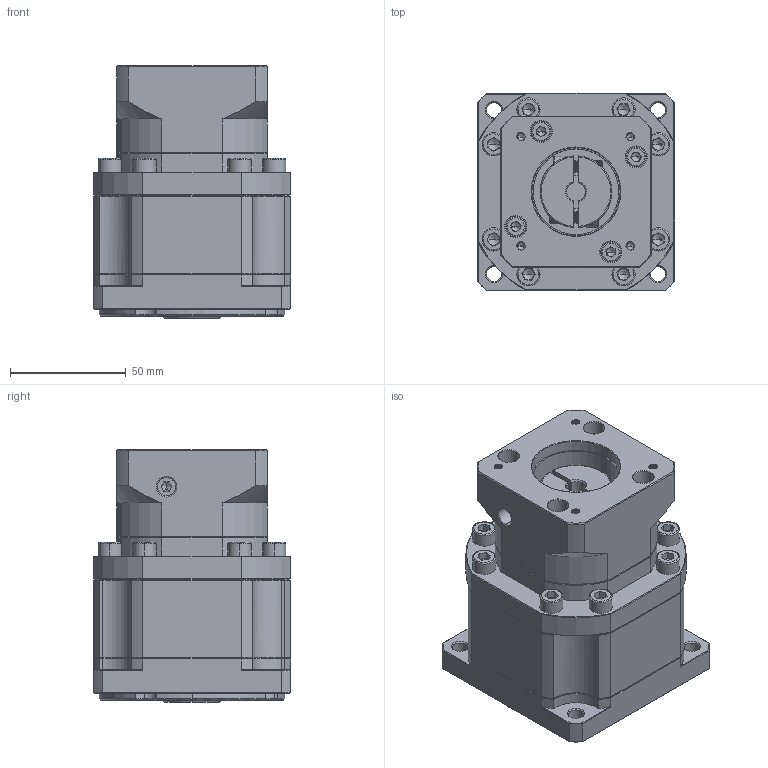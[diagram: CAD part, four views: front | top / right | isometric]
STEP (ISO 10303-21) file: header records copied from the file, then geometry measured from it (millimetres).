
FILE_DESCRIPTION (( 'STEP AP214' ), '1' );
FILE_NAME ('ZB90-K15-L2-8-38.1-47.14X47.14-M4.STEP', '2022-05-02T15:11:52', ( '' ), ( 'Microsoft' ), 'SwSTEP 2.0', 'SolidWorks 2016', '' );
FILE_SCHEMA (( 'AUTOMOTIVE_DESIGN' ));
Length unit declared in the file: millimetre
Products named in the file (1): ZB90-K15-L2-8-38.1-47.14X47.14-M4
Bounding box: 85 x 85 x 109 mm (x, y, z)
Volume: 530607.2 mm3; surface area: 74621.1 mm2
Topology: 6 solids, 6 shells, 2023 faces, 5309 edges, 3376 vertices
Faces by surface type: plane 998, cylinder 367, cone 318, bspline 318, torus 22
Entity records: 101066 total; most frequent: CARTESIAN_POINT 31403, ORIENTED_EDGE 10530, DIRECTION 8766, EDGE_CURVE 5265, VERTEX_POINT 3376, VECTOR 3260, LINE 3260, AXIS2_PLACEMENT_3D 2753
